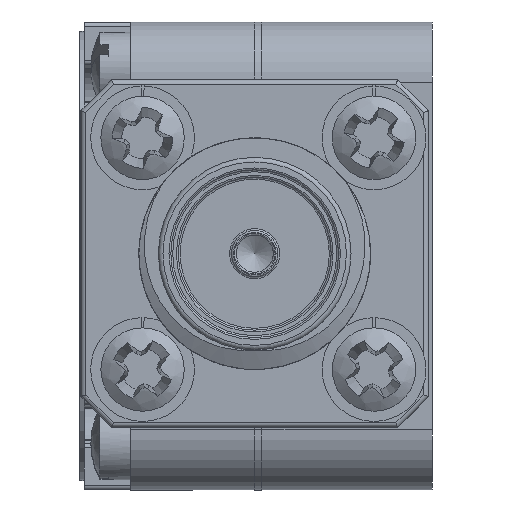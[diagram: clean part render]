
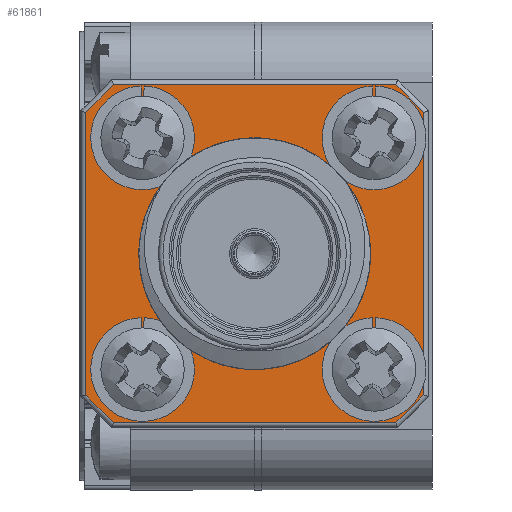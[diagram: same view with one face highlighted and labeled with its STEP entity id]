
A CAD part, left-side view. The second image highlights one B-rep face of the part: STEP entity #61861.
In plain terms, the highlighted planar face has unit normal (-1, 0, 0).
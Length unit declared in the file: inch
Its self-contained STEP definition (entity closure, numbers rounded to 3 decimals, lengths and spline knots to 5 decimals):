
#1248 = CARTESIAN_POINT ( 'NONE',  ( -0.29, 0.0093, -0.33942 ) ) ;
#1265 = VERTEX_POINT ( 'NONE', #15162 ) ;
#1970 = CARTESIAN_POINT ( 'NONE',  ( -0.29, 0.1918, -0.18 ) ) ;
#2487 = VERTEX_POINT ( 'NONE', #38187 ) ;
#3255 = CARTESIAN_POINT ( 'NONE',  ( -0.29, 0.0668, 0.1275 ) ) ;
#3375 = ORIENTED_EDGE ( 'NONE', *, *, #10264, .T. ) ;
#3500 = CARTESIAN_POINT ( 'NONE',  ( -0.29, 0.3743, -0.33942 ) ) ;
#3518 = PLANE ( 'NONE',  #11542 ) ;
#4690 = CARTESIAN_POINT ( 'NONE',  ( -0.29, 0.0668, -0.1225 ) ) ;
#5369 = DIRECTION ( 'NONE',  ( 0., 0., 1. ) ) ;
#5675 = LINE ( 'NONE', #1248, #60052 ) ;
#7107 = CIRCLE ( 'NONE', #48203, 0.0385 ) ;
#7557 = CARTESIAN_POINT ( 'NONE',  ( -0.29, 0.1918, 0.1065 ) ) ;
#9082 = EDGE_CURVE ( 'NONE', #14615, #29210, #51485, .T. ) ;
#10028 = DIRECTION ( 'NONE',  ( 0., 0., 1. ) ) ;
#10062 = VECTOR ( 'NONE', #22698, 39.37008 ) ;
#10173 = CARTESIAN_POINT ( 'NONE',  ( -0.29, 0.0668, 0.166 ) ) ;
#10264 = EDGE_CURVE ( 'NONE', #49393, #49393, #14013, .T. ) ;
#10877 = ORIENTED_EDGE ( 'NONE', *, *, #27425, .T. ) ;
#11542 = AXIS2_PLACEMENT_3D ( 'NONE', #14203, #34048, #5369 ) ;
#12072 = DIRECTION ( 'NONE',  ( 0., 1., 0. ) ) ;
#12136 = VECTOR ( 'NONE', #12072, 39.37008 ) ;
#12577 = AXIS2_PLACEMENT_3D ( 'NONE', #15392, #44503, #20412 ) ;
#12826 = DIRECTION ( 'NONE',  ( 0., -0.707, -0.707 ) ) ;
#12949 = FACE_BOUND ( 'NONE', #19053, .T. ) ;
#13195 = CARTESIAN_POINT ( 'NONE',  ( -0.29, -0.14659, -0.00104 ) ) ;
#13490 = LINE ( 'NONE', #13195, #10062 ) ;
#14013 = CIRCLE ( 'NONE', #29134, 0.0385 ) ;
#14203 = CARTESIAN_POINT ( 'NONE',  ( -0.29, 0.1918, -0.33942 ) ) ;
#14615 = VERTEX_POINT ( 'NONE', #32605 ) ;
#15162 = CARTESIAN_POINT ( 'NONE',  ( -0.29, 0.3168, 0.166 ) ) ;
#15392 = CARTESIAN_POINT ( 'NONE',  ( -0.29, 0.1918, 0.0025 ) ) ;
#16116 = EDGE_CURVE ( 'NONE', #29210, #57456, #27115, .T. ) ;
#17280 = EDGE_CURVE ( 'NONE', #19387, #18589, #13490, .T. ) ;
#18487 = EDGE_LOOP ( 'NONE', ( #33748 ) ) ;
#18589 = VERTEX_POINT ( 'NONE', #60509 ) ;
#18984 = FACE_BOUND ( 'NONE', #27049, .T. ) ;
#19053 = EDGE_LOOP ( 'NONE', ( #60018 ) ) ;
#19387 = VERTEX_POINT ( 'NONE', #56697 ) ;
#20027 = CARTESIAN_POINT ( 'NONE',  ( -0.29, 0.03945, -0.18 ) ) ;
#20412 = DIRECTION ( 'NONE',  ( 0., 0., 1. ) ) ;
#20492 = DIRECTION ( 'NONE',  ( 0., 0., 1. ) ) ;
#20599 = ORIENTED_EDGE ( 'NONE', *, *, #30740, .T. ) ;
#20757 = EDGE_CURVE ( 'NONE', #1265, #1265, #7107, .T. ) ;
#22212 = VERTEX_POINT ( 'NONE', #55387 ) ;
#22698 = DIRECTION ( 'NONE',  ( 0., 0.707, 0.707 ) ) ;
#23120 = DIRECTION ( 'NONE',  ( 0., 0., 1. ) ) ;
#23681 = FACE_BOUND ( 'NONE', #23754, .T. ) ;
#23754 = EDGE_LOOP ( 'NONE', ( #3375 ) ) ;
#23930 = DIRECTION ( 'NONE',  ( 1., 0., 0. ) ) ;
#26627 = EDGE_LOOP ( 'NONE', ( #29687 ) ) ;
#27049 = EDGE_LOOP ( 'NONE', ( #27302 ) ) ;
#27115 = LINE ( 'NONE', #1970, #42459 ) ;
#27302 = ORIENTED_EDGE ( 'NONE', *, *, #20757, .T. ) ;
#27425 = EDGE_CURVE ( 'NONE', #59332, #2487, #59177, .T. ) ;
#27504 = FACE_BOUND ( 'NONE', #26627, .T. ) ;
#27550 = CARTESIAN_POINT ( 'NONE',  ( -0.29, 0.1918, 0.185 ) ) ;
#27566 = EDGE_CURVE ( 'NONE', #49312, #49312, #58793, .T. ) ;
#28367 = CIRCLE ( 'NONE', #41335, 0.0385 ) ;
#28822 = CARTESIAN_POINT ( 'NONE',  ( -0.29, 0.34415, -0.18 ) ) ;
#29134 = AXIS2_PLACEMENT_3D ( 'NONE', #3255, #61459, #23120 ) ;
#29210 = VERTEX_POINT ( 'NONE', #28822 ) ;
#29687 = ORIENTED_EDGE ( 'NONE', *, *, #27566, .F. ) ;
#30268 = CARTESIAN_POINT ( 'NONE',  ( -0.29, 0.34415, 0.185 ) ) ;
#30289 = ORIENTED_EDGE ( 'NONE', *, *, #34000, .T. ) ;
#30740 = EDGE_CURVE ( 'NONE', #22212, #19387, #5675, .T. ) ;
#32411 = ORIENTED_EDGE ( 'NONE', *, *, #57511, .T. ) ;
#32605 = CARTESIAN_POINT ( 'NONE',  ( -0.29, 0.3743, -0.14985 ) ) ;
#33245 = EDGE_CURVE ( 'NONE', #61013, #61013, #28367, .T. ) ;
#33748 = ORIENTED_EDGE ( 'NONE', *, *, #45918, .T. ) ;
#34000 = EDGE_CURVE ( 'NONE', #57456, #22212, #39457, .T. ) ;
#34048 = DIRECTION ( 'NONE',  ( 1., 0., 0. ) ) ;
#36340 = LINE ( 'NONE', #27550, #12136 ) ;
#36473 = ORIENTED_EDGE ( 'NONE', *, *, #17280, .T. ) ;
#37643 = AXIS2_PLACEMENT_3D ( 'NONE', #43529, #58032, #61851 ) ;
#38187 = CARTESIAN_POINT ( 'NONE',  ( -0.29, 0.3743, 0.15485 ) ) ;
#39179 = VERTEX_POINT ( 'NONE', #48232 ) ;
#39457 = LINE ( 'NONE', #58602, #52445 ) ;
#39514 = CARTESIAN_POINT ( 'NONE',  ( -0.29, 0.3168, 0.1275 ) ) ;
#39816 = DIRECTION ( 'NONE',  ( 1., 0., 0. ) ) ;
#40063 = DIRECTION ( 'NONE',  ( 0., -0.707, 0.707 ) ) ;
#40688 = VECTOR ( 'NONE', #55105, 39.37008 ) ;
#41335 = AXIS2_PLACEMENT_3D ( 'NONE', #4690, #23930, #10028 ) ;
#41978 = ORIENTED_EDGE ( 'NONE', *, *, #58265, .T. ) ;
#42459 = VECTOR ( 'NONE', #60688, 39.37008 ) ;
#43529 = CARTESIAN_POINT ( 'NONE',  ( -0.29, 0.3168, -0.1225 ) ) ;
#43549 = CIRCLE ( 'NONE', #37643, 0.0385 ) ;
#44503 = DIRECTION ( 'NONE',  ( -1., 0., 0. ) ) ;
#45918 = EDGE_CURVE ( 'NONE', #39179, #39179, #43549, .T. ) ;
#46516 = FACE_BOUND ( 'NONE', #18487, .T. ) ;
#48065 = ORIENTED_EDGE ( 'NONE', *, *, #16116, .T. ) ;
#48203 = AXIS2_PLACEMENT_3D ( 'NONE', #39514, #39816, #59290 ) ;
#48232 = CARTESIAN_POINT ( 'NONE',  ( -0.29, 0.3168, -0.084 ) ) ;
#49312 = VERTEX_POINT ( 'NONE', #7557 ) ;
#49393 = VERTEX_POINT ( 'NONE', #10173 ) ;
#51343 = VECTOR ( 'NONE', #56317, 39.37008 ) ;
#51386 = ORIENTED_EDGE ( 'NONE', *, *, #9082, .T. ) ;
#51485 = LINE ( 'NONE', #55921, #59723 ) ;
#52144 = CARTESIAN_POINT ( 'NONE',  ( -0.29, 0.0668, -0.084 ) ) ;
#52445 = VECTOR ( 'NONE', #40063, 39.37008 ) ;
#55105 = DIRECTION ( 'NONE',  ( 0., 0.707, -0.707 ) ) ;
#55387 = CARTESIAN_POINT ( 'NONE',  ( -0.29, 0.0093, -0.14985 ) ) ;
#55743 = FACE_OUTER_BOUND ( 'NONE', #61147, .T. ) ;
#55921 = CARTESIAN_POINT ( 'NONE',  ( -0.29, 0.18826, -0.33589 ) ) ;
#56317 = DIRECTION ( 'NONE',  ( 0., 0., -1. ) ) ;
#56616 = LINE ( 'NONE', #3500, #51343 ) ;
#56697 = CARTESIAN_POINT ( 'NONE',  ( -0.29, 0.0093, 0.15485 ) ) ;
#57456 = VERTEX_POINT ( 'NONE', #20027 ) ;
#57511 = EDGE_CURVE ( 'NONE', #2487, #14615, #56616, .T. ) ;
#58032 = DIRECTION ( 'NONE',  ( 1., 0., 0. ) ) ;
#58265 = EDGE_CURVE ( 'NONE', #18589, #59332, #36340, .T. ) ;
#58602 = CARTESIAN_POINT ( 'NONE',  ( -0.29, 0.19534, -0.33589 ) ) ;
#58793 = CIRCLE ( 'NONE', #12577, 0.104 ) ;
#59177 = LINE ( 'NONE', #60445, #40688 ) ;
#59290 = DIRECTION ( 'NONE',  ( 0., 0., 1. ) ) ;
#59332 = VERTEX_POINT ( 'NONE', #30268 ) ;
#59723 = VECTOR ( 'NONE', #12826, 39.37008 ) ;
#60018 = ORIENTED_EDGE ( 'NONE', *, *, #33245, .T. ) ;
#60052 = VECTOR ( 'NONE', #20492, 39.37008 ) ;
#60445 = CARTESIAN_POINT ( 'NONE',  ( -0.29, 0.53019, -0.00104 ) ) ;
#60509 = CARTESIAN_POINT ( 'NONE',  ( -0.29, 0.03945, 0.185 ) ) ;
#60688 = DIRECTION ( 'NONE',  ( 0., -1., 0. ) ) ;
#61013 = VERTEX_POINT ( 'NONE', #52144 ) ;
#61147 = EDGE_LOOP ( 'NONE', ( #41978, #10877, #32411, #51386, #48065, #30289, #20599, #36473 ) ) ;
#61459 = DIRECTION ( 'NONE',  ( 1., 0., 0. ) ) ;
#61851 = DIRECTION ( 'NONE',  ( 0., 0., 1. ) ) ;
#61861 = ADVANCED_FACE ( 'NONE', ( #12949, #46516, #23681, #18984, #55743, #27504 ), #3518, .F. ) ;
